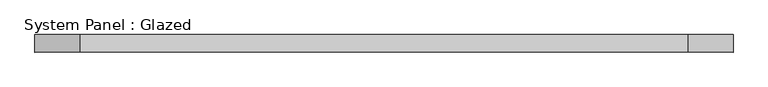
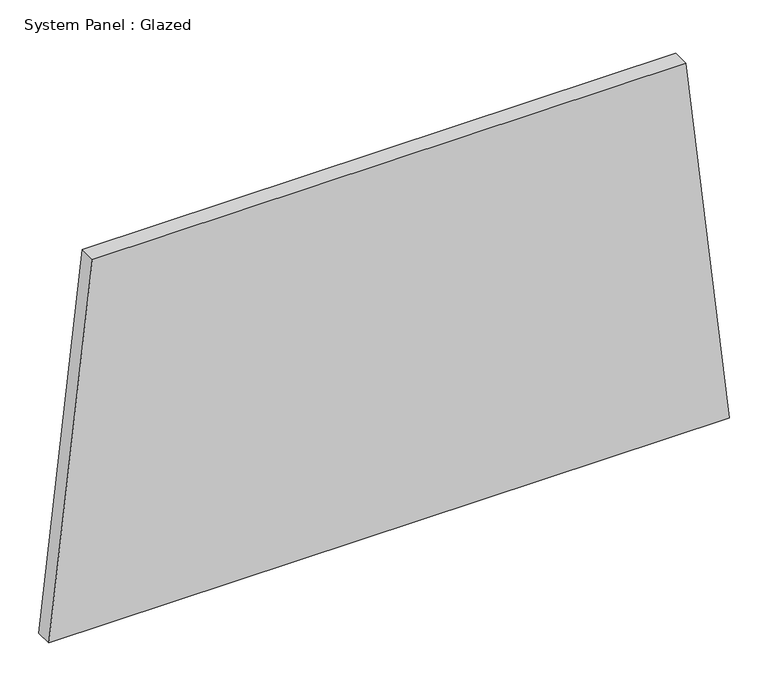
"""IFC4 building model written with IfcOpenShell, lengths in millimetres: plate geometry, System Panel : Glazed."""

from ifc_helpers import new_model, si_unit, frame, origin, place, context, project, spatial, polyline, outline, extrude, source, transform, mapped, element, save


def system_panel_glazed_1256fb3b(model_context):
    return source(origin(), model_context, "Body", "SweptSolid", [
        extrude(outline(polyline([(0.0, -505.4775988), (0.0, 505.4775988), (580.4357246, 440.6729813), (580.4357246, -440.6729813), (0.0, -505.4775988)])), frame((0.0, 19.05, 0.0), z_axis=(0.0, 1.0, 0.0), x_axis=(0.0, 0.0, 1.0)), (0.0, 0.0, 1.0), 25.4),
    ])


if __name__ == "__main__":
    model = new_model("IFC4")
    model_context = context("Model", 3, world=origin())
    ifc_project = project(units=[si_unit("LENGTHUNIT", "METRE", prefix="MILLI")], contexts=[model_context])
    site = spatial("IfcSite", under=ifc_project)
    building = spatial("IfcBuilding", under=site)
    placement = place(None, origin())
    system_panel_glazed_shape = system_panel_glazed_1256fb3b(model_context)
    element("IfcPlate", 1, ObjectType="System Panel : Glazed", at=placement, inside=building, context=model_context, shape_type="MappedRepresentation", body=[
        mapped(system_panel_glazed_shape, transform((0.0, 0.0, 0.0), x_axis=(1.0, 0.0, 0.0), y_axis=(0.0, 1.0, 0.0), z_axis=(0.0, 0.0, 1.0))),
    ])
    save(model, "model.ifc")
